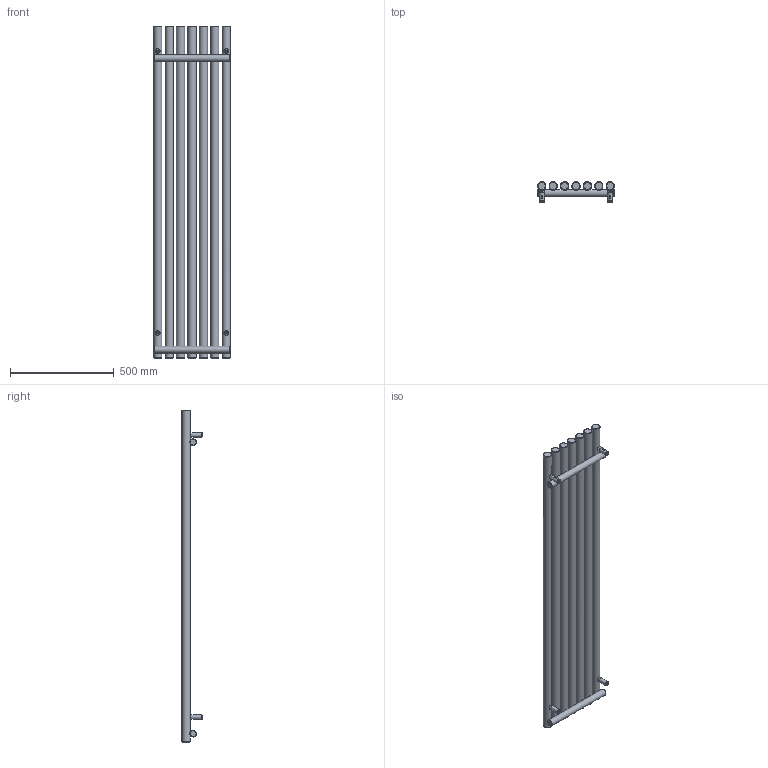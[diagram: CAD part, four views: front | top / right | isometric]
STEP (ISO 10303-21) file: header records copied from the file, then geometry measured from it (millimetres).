
FILE_DESCRIPTION(/* description */ (''),/* implementation_level */ '2;1');
FILE_NAME(/* name */ 'Z:\R\G\P\RGP116 - Grzejniki Geyser\Work\Inventor\Circolo (Rolo V, Rolo H)\ROLO-ROOM\Marketing\Bryły 3D\Zaokrąglone\WLROR160037-ES-CK-(Z).stp',/* time_stamp */ '2024-03-29T15:54:09+01:00',/* author */ ('NowAd'),/* organization */ (''),/* preprocessor_version */ 'ST-DEVELOPER v17.2',/* originating_system */ 'Autodesk Inventor 2019',/* authorisation */ '');
FILE_SCHEMA (('AUTOMOTIVE_DESIGN { 1 0 10303 214 3 1 1 }'));
Length unit declared in the file: millimetre
Products named in the file (3): WLROR160037-ES-CK-(Z); PGROR160037-ES-CK-(K); CK-V-fi40 marketing
Assembly tree (5 placements, depth 2):
  WLROR160037-ES-CK-(Z)
    PGROR160037-ES-CK-(K)
    CK-V-fi40 marketing  x4
Bounding box: 370 x 96.5 x 1600 mm (x, y, z)
Volume: 14709882 mm3; surface area: 1525423.1 mm2
Topology: 5 solids, 5 shells, 331 faces, 829 edges, 554 vertices
Faces by surface type: plane 136, cylinder 75, cone 60, torus 46, bspline 14
Full cylindrical faces by diameter (mm): 4.134 x4, 4.48 x4, 6.4 x4, 10 x4, 12 x4, 15.834 x4, 16 x4, 18.631 x2, 22 x4, 32 x2, 40 x7
Entity records: 7542 total; most frequent: CARTESIAN_POINT 4000, DIRECTION 738, ORIENTED_EDGE 696, EDGE_CURVE 348, AXIS2_PLACEMENT_3D 331, VERTEX_POINT 236, EDGE_LOOP 194, CIRCLE 181
